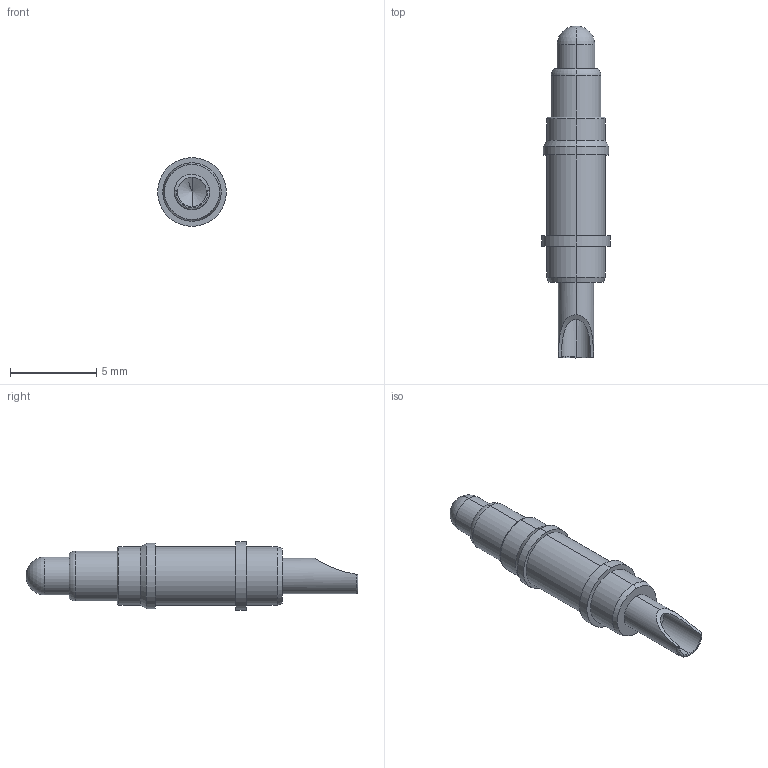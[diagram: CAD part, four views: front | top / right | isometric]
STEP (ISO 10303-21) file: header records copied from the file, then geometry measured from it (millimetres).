
FILE_DESCRIPTION((''),'2;1');
FILE_NAME('C3246-01PA','2022-05-18T15:32:05',('Administrator'),(''),'CREO PARAMETRIC BY PTC INC, 2018400','CREO PARAMETRIC BY PTC INC, 2018400','');
FILE_SCHEMA(('CONFIG_CONTROL_DESIGN'));
Length unit declared in the file: millimetre
Products named in the file (1): C3246-01PA
Bounding box: 4 x 19.3 x 4 mm (x, y, z)
Volume: 123.6 mm3; surface area: 204.6 mm2
Topology: 1 solids, 1 shells, 40 faces, 88 edges, 53 vertices
Faces by surface type: cylinder 19, plane 8, cone 6, torus 5, sphere 2
Entity records: 1208 total; most frequent: CARTESIAN_POINT 280, DIRECTION 204, ORIENTED_EDGE 168, AXIS2_PLACEMENT_3D 89, EDGE_CURVE 84, VERTEX_POINT 53, CIRCLE 49, EDGE_LOOP 47
